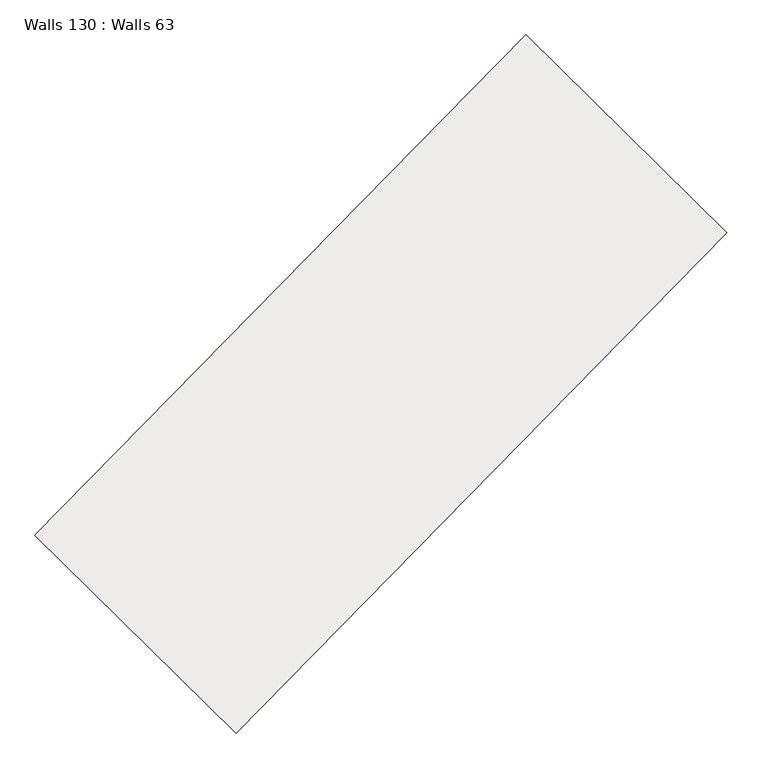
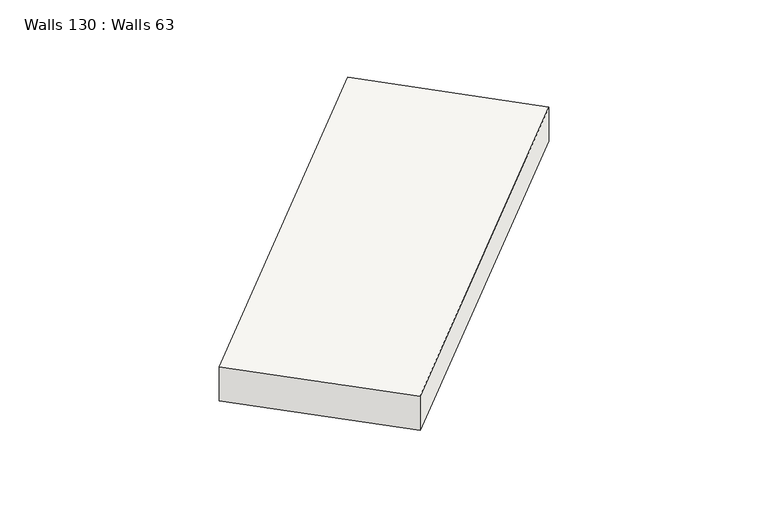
"""IFC4 building model written with IfcOpenShell, lengths in millimetres: slab geometry, Walls 130 : Walls 63."""

from ifc_helpers import new_model, si_unit, frame, origin, place, context, project, spatial, polyline, outline, extrude, source, transform, mapped, element, save


def walls_130_walls_63_db853422(model_context):
    return source(origin(), model_context, "Body", "SweptSolid", [
        extrude(outline(polyline([(-350.0, 0.0), (350.0, 0.0), (286.8197328, -8699.9999996), (-413.1802672, -8699.9999996), (-350.0, 0.0)])), frame((-21.5667029, -159224.1077748, 638450.0), z_axis=(-0.7137361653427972, 0.7004146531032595, 0.0), x_axis=(0.0, 0.0, 1.0)), (0.0, 0.0, 1.0), 3499.999995),
    ])


if __name__ == "__main__":
    model = new_model("IFC4")
    model_context = context("Model", 3, world=origin())
    ifc_project = project(units=[si_unit("LENGTHUNIT", "METRE", prefix="MILLI")], contexts=[model_context])
    site = spatial("IfcSite", under=ifc_project)
    building = spatial("IfcBuilding", under=site)
    placement = place(None, origin())
    walls_130_walls_63_shape = walls_130_walls_63_db853422(model_context)
    element("IfcSlab", 1, ObjectType="Walls 130 : Walls 63", at=placement, inside=building, context=model_context, shape_type="MappedRepresentation", body=[
        mapped(walls_130_walls_63_shape, transform((0.0, 0.0, 0.0), x_axis=(1.0, 0.0, 0.0), y_axis=(0.0, 1.0, 0.0), z_axis=(0.0, 0.0, 1.0))),
    ])
    save(model, "model.ifc")
